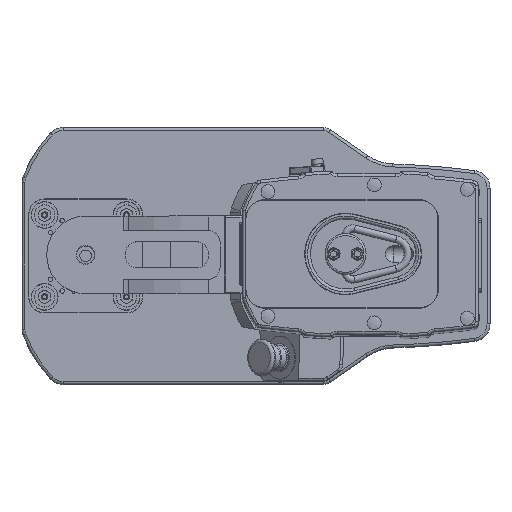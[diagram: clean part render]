
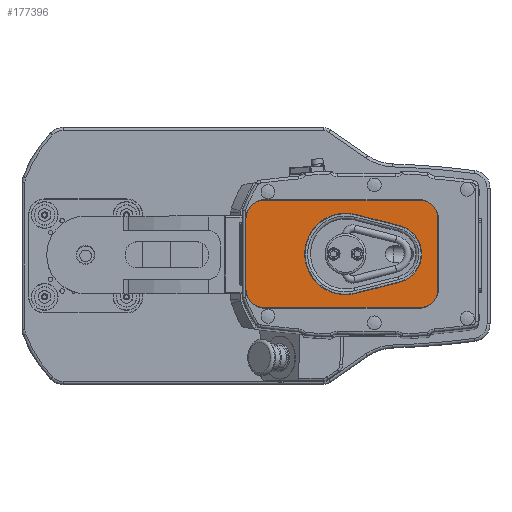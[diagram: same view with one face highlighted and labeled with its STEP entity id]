
A CAD part, top view. The second image highlights one B-rep face of the part: STEP entity #177396.
In plain terms, the highlighted planar face has unit normal (0, 0, 1).
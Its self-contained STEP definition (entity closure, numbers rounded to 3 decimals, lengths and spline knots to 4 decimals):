
#2219=FACE_BOUND('',#14948,.T.);
#5877=FACE_OUTER_BOUND('',#14947,.T.);
#14947=EDGE_LOOP('',(#131444,#131445,#131446,#131447,#131448,#131449,#131450,
#131451));
#14948=EDGE_LOOP('',(#131452,#131453,#131454,#131455));
#23461=CIRCLE('',#187958,0.8);
#23462=CIRCLE('',#187959,0.8);
#23463=CIRCLE('',#187960,0.8);
#23464=CIRCLE('',#187961,0.8);
#23465=CIRCLE('',#187962,1.744);
#23466=CIRCLE('',#187963,1.25);
#32247=LINE('',#260876,#54824);
#32248=LINE('',#260880,#54825);
#32249=LINE('',#260884,#54826);
#32250=LINE('',#260887,#54827);
#32251=LINE('',#260892,#54828);
#32252=LINE('',#260895,#54829);
#54824=VECTOR('',#211716,1.);
#54825=VECTOR('',#211719,1.);
#54826=VECTOR('',#211722,1.);
#54827=VECTOR('',#211725,1.);
#54828=VECTOR('',#211728,1.);
#54829=VECTOR('',#211731,1.);
#76311=VERTEX_POINT('',#260872);
#76312=VERTEX_POINT('',#260873);
#76313=VERTEX_POINT('',#260875);
#76314=VERTEX_POINT('',#260877);
#76315=VERTEX_POINT('',#260879);
#76316=VERTEX_POINT('',#260881);
#76317=VERTEX_POINT('',#260883);
#76318=VERTEX_POINT('',#260885);
#76319=VERTEX_POINT('',#260888);
#76320=VERTEX_POINT('',#260889);
#76321=VERTEX_POINT('',#260891);
#76322=VERTEX_POINT('',#260893);
#97188=EDGE_CURVE('',#76311,#76312,#23461,.T.);
#97189=EDGE_CURVE('',#76312,#76313,#32247,.T.);
#97190=EDGE_CURVE('',#76313,#76314,#23462,.T.);
#97191=EDGE_CURVE('',#76314,#76315,#32248,.T.);
#97192=EDGE_CURVE('',#76315,#76316,#23463,.T.);
#97193=EDGE_CURVE('',#76316,#76317,#32249,.T.);
#97194=EDGE_CURVE('',#76317,#76318,#23464,.T.);
#97195=EDGE_CURVE('',#76318,#76311,#32250,.T.);
#97196=EDGE_CURVE('',#76319,#76320,#23465,.T.);
#97197=EDGE_CURVE('',#76320,#76321,#32251,.T.);
#97198=EDGE_CURVE('',#76321,#76322,#23466,.T.);
#97199=EDGE_CURVE('',#76322,#76319,#32252,.T.);
#131444=ORIENTED_EDGE('',*,*,#97188,.T.);
#131445=ORIENTED_EDGE('',*,*,#97189,.T.);
#131446=ORIENTED_EDGE('',*,*,#97190,.T.);
#131447=ORIENTED_EDGE('',*,*,#97191,.T.);
#131448=ORIENTED_EDGE('',*,*,#97192,.T.);
#131449=ORIENTED_EDGE('',*,*,#97193,.T.);
#131450=ORIENTED_EDGE('',*,*,#97194,.T.);
#131451=ORIENTED_EDGE('',*,*,#97195,.T.);
#131452=ORIENTED_EDGE('',*,*,#97196,.T.);
#131453=ORIENTED_EDGE('',*,*,#97197,.T.);
#131454=ORIENTED_EDGE('',*,*,#97198,.T.);
#131455=ORIENTED_EDGE('',*,*,#97199,.T.);
#169323=PLANE('',#187957);
#177396=ADVANCED_FACE('',(#5877,#2219),#169323,.T.);
#187957=AXIS2_PLACEMENT_3D('',#260871,#211712,#211713);
#187958=AXIS2_PLACEMENT_3D('',#260874,#211714,#211715);
#187959=AXIS2_PLACEMENT_3D('',#260878,#211717,#211718);
#187960=AXIS2_PLACEMENT_3D('',#260882,#211720,#211721);
#187961=AXIS2_PLACEMENT_3D('',#260886,#211723,#211724);
#187962=AXIS2_PLACEMENT_3D('',#260890,#211726,#211727);
#187963=AXIS2_PLACEMENT_3D('',#260894,#211729,#211730);
#211712=DIRECTION('center_axis',(0.,0.,
1.));
#211713=DIRECTION('ref_axis',(0.,1.,0.));
#211714=DIRECTION('center_axis',(0.,0.,
1.));
#211715=DIRECTION('ref_axis',(0.,-1.,0.));
#211716=DIRECTION('',(0.,1.,0.));
#211717=DIRECTION('center_axis',(0.,0.,
1.));
#211718=DIRECTION('ref_axis',(1.,0.,0.));
#211719=DIRECTION('',(-1.,0.,0.));
#211720=DIRECTION('center_axis',(0.,0.,
1.));
#211721=DIRECTION('ref_axis',(0.,1.,0.));
#211722=DIRECTION('',(0.,-1.,0.));
#211723=DIRECTION('center_axis',(0.,0.,
1.));
#211724=DIRECTION('ref_axis',(-1.,0.,0.));
#211725=DIRECTION('',(1.,0.,0.));
#211726=DIRECTION('center_axis',(0.,0.,
-1.));
#211727=DIRECTION('ref_axis',(0.247,0.969,0.));
#211728=DIRECTION('',(0.969,-0.247,0.));
#211729=DIRECTION('center_axis',(0.,0.,
-1.));
#211730=DIRECTION('ref_axis',(0.247,-0.969,0.));
#211731=DIRECTION('',(-0.969,-0.247,0.));
#260871=CARTESIAN_POINT('Origin',(18.6818,36.2456,57.7197));
#260872=CARTESIAN_POINT('',(21.9818,33.9456,57.7197));
#260873=CARTESIAN_POINT('',(22.7818,34.7456,57.7197));
#260874=CARTESIAN_POINT('Origin',(21.9818,34.7456,57.7197));
#260875=CARTESIAN_POINT('',(22.7818,37.7456,57.7197));
#260876=CARTESIAN_POINT('',(22.7818,34.7456,57.7197));
#260877=CARTESIAN_POINT('',(21.9818,38.5456,57.7197));
#260878=CARTESIAN_POINT('Origin',(21.9818,37.7456,57.7197));
#260879=CARTESIAN_POINT('',(15.3818,38.5456,57.7197));
#260880=CARTESIAN_POINT('',(21.9818,38.5456,57.7197));
#260881=CARTESIAN_POINT('',(14.5818,37.7456,57.7197));
#260882=CARTESIAN_POINT('Origin',(15.3818,37.7456,57.7197));
#260883=CARTESIAN_POINT('',(14.5818,34.7456,57.7197));
#260884=CARTESIAN_POINT('',(14.5818,37.7456,57.7197));
#260885=CARTESIAN_POINT('',(15.3818,33.9456,57.7197));
#260886=CARTESIAN_POINT('Origin',(15.3818,34.7456,57.7197));
#260887=CARTESIAN_POINT('',(15.3818,33.9456,57.7197));
#260888=CARTESIAN_POINT('',(19.2666,34.5557,57.7197));
#260889=CARTESIAN_POINT('',(19.2666,37.9356,57.7197));
#260890=CARTESIAN_POINT('Origin',(18.8359,36.2456,57.7197));
#260891=CARTESIAN_POINT('',(21.1446,37.4569,57.7197));
#260892=CARTESIAN_POINT('',(20.1333,37.7147,57.7197));
#260893=CARTESIAN_POINT('',(21.1446,35.0344,57.7197));
#260894=CARTESIAN_POINT('Origin',(20.8359,36.2456,57.7197));
#260895=CARTESIAN_POINT('',(19.1943,34.5372,57.7197));
